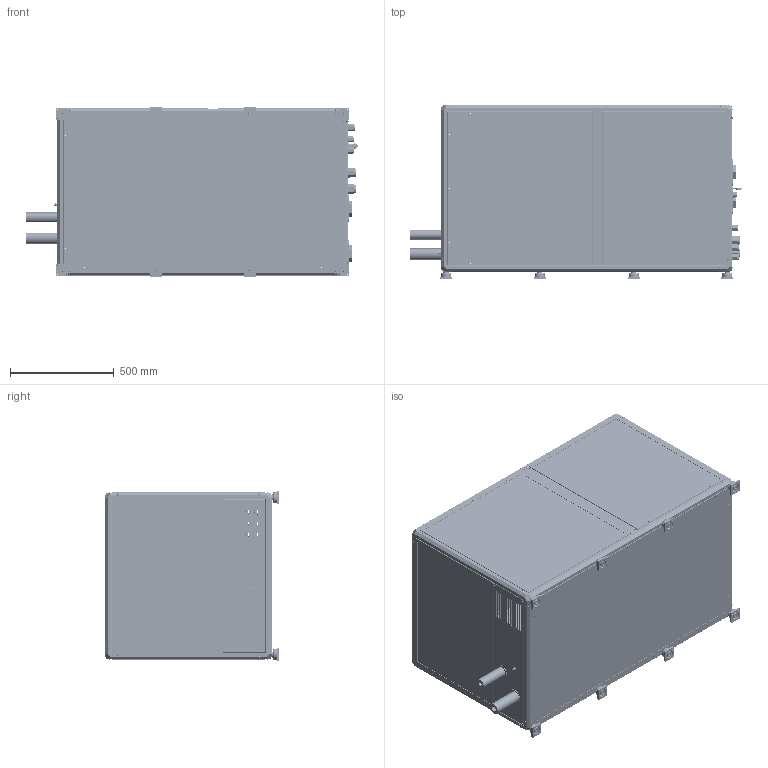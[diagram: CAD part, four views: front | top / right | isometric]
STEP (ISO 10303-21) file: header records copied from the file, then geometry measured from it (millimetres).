
FILE_DESCRIPTION(/* description */ ('VRT100E2-4V - 400VAC USCITE DIRETTE ø28 GAS + ø22 LIQUIDO'),/* implementation_level */ '2;1');
FILE_NAME(/* name */ 'VRT-100-E2-001.stp',/* time_stamp */ '2025-01-24T12:03:25+01:00',/* author */ ('CAD 1'),/* organization */ (''),/* preprocessor_version */ 'ST-DEVELOPER v20',/* originating_system */ 'Autodesk Inventor 2024',/* authorisation */ 'D.Z.');
FILE_SCHEMA (('AUTOMOTIVE_DESIGN { 1 0 10303 214 3 1 1 }'));
Products named in the file (108): VRT-100-E2-001; VRT-000000459; VRT-000000114; VRT-000000402; VRT-000000407; VRT-000000505; VRT-000000403; VRT-000000401; VRT-000000401_01; MIN01-0000079; VRT-05-000006; VRT-000000451; VRT-000000106; VRT-000000446; VRT-000000446_01; VRT-000000446_02; VRT-000000447; VRT-000000447_02; VRT-000000447_03; ELT01-0000095; ELT01-0000013; ELT01-0000013_02; ELT01-0000013_01; ELT01-0000013_01_01; ELT01-0000013_01_02; ELT01-0000101; ELT01-0000101_02; ELT01-0000101_01; ELT01-0000101_01_01; ELT01-0000101_01_02; ELT01-0000010; ELT01-0000010_02; ELT01-0000010_01; ELT01-0000010_01_01; ELT01-0000010_01_02; ELT01-0000006; H2O-000000001; VRT-000000059; RAI01-0000036; CMC02-0000003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
Assembly tree (213 placements, depth 4):
  VRT-100-E2-001
    VRT-000000114  x2
    VRT-000000459
    VRT-000000402
    VRT-000000407
    VRT-000000505
    VRT-000000403
    VRT-000000401
      VRT-000000401_01
      MIN01-0000079  x2
    VRT-05-000006
      VRT-000000451
        VRT-000000106
      VRT-000000446
        VRT-000000446_01
        VRT-000000446_02
      VRT-000000447
        VRT-000000447_02
        VRT-000000447_03
    ELT01-0000095  x2
    ELT01-0000013  x2
      ELT01-0000013_02
      ELT01-0000013_01
        ELT01-0000013_01_01
        ELT01-0000013_01_02
    ELT01-0000101  x4
      ELT01-0000101_02
      ELT01-0000101_01
        ELT01-0000101_01_01
        ELT01-0000101_01_02
    ELT01-0000010  x6
      ELT01-0000010_02
      ELT01-0000010_01
        ELT01-0000010_01_01
        ELT01-0000010_01_02
    ELT01-0000006
    H2O-000000001
    VRT-000000059
      RAI01-0000036
      CMC02-0000003
      RAI01-0000037
      ELT01-0000060
      ELT01-0000054
      MIN01-0000010  x4
      MIN01-0000052  x4
    VRT-000000464
      PRF01-0000003-0740
      PRF01-0000003-0740_1
      PRF01-0000003-0530
      PRF01-0000003-0530_1
      ISL01-0000005-0526-0736
    VRT-000000278
      PRF01-0000003-1340
      PRF01-0000003-1340_1
      PRF01-0000003-0740_2
      PRF01-0000003-0740_3
      ISL01-0000005-1336-0736
    VRT-000000278_1
      PRF01-0000003-1340_2
      PRF01-0000003-1340_3
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Bounding box: 1596.85 x 838.6 x 818.17 mm (x, y, z)
Volume: 118712573.4 mm3; surface area: 18379943 mm2
Topology: 256 solids, 257 shells, 8238 faces, 21380 edges, 14024 vertices
Faces by surface type: plane 4183, cylinder 2894, bspline 613, cone 323, sphere 120, torus 105
Full cylindrical faces by diameter (mm): 2.5 x4, 3 x4, 3.2 x8, 3.242 x6, 4.134 x4, 4.2 x72, 4.3 x1, 4.5 x17, 5 x368, 5.3 x8, 5.5 x5, 5.8 x2, 6 x2, 6.3 x1, 6.5 x33, 6.647 x16, 7 x74, 7.6 x1, 8 x16, 8.2 x1, 8.5 x4, 8.8 x2, 9 x8, 9.35 x1, 10 x5, 12 x1, 13 x16, 13.5 x8, 14.5 x6, 14.7 x6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
Entity records: 125487 total; most frequent: CARTESIAN_POINT 26809, DIRECTION 19428, ORIENTED_EDGE 19260, EDGE_CURVE 9630, AXIS2_PLACEMENT_3D 6623, VERTEX_POINT 6255, LINE 6182, VECTOR 6182
